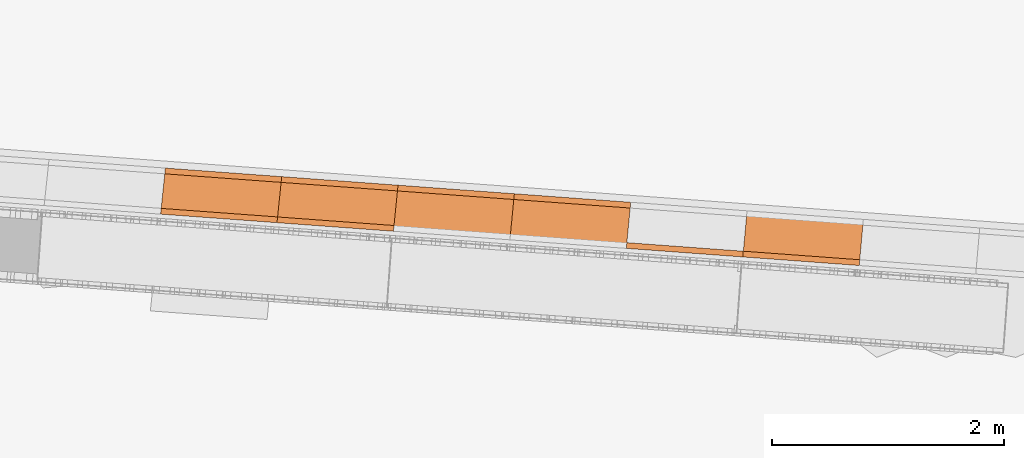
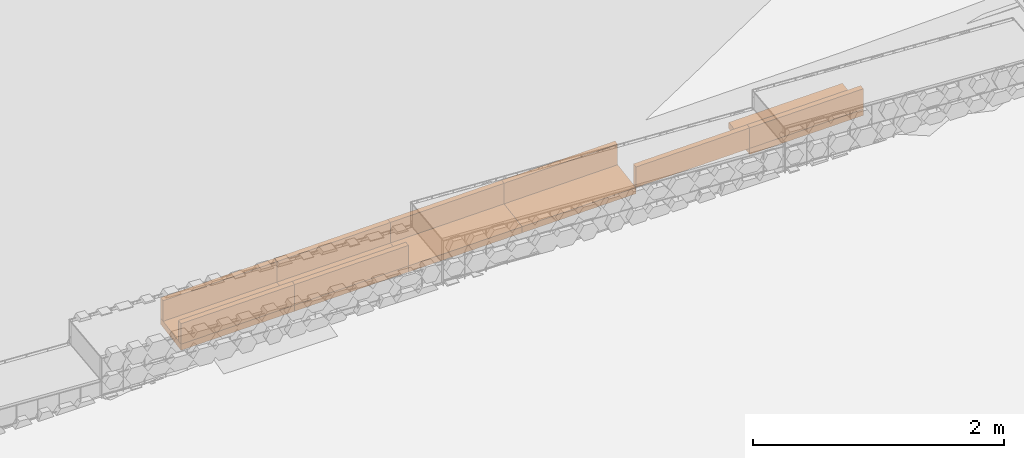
# Not in any storey, part 38 of 46: 13 proxies.
"""IFC4 model written with IfcOpenShell, lengths in metres."""

from ifc_helpers import new_model, si_unit, direction, frame, origin_with_axes, place, context, subcontext, project, spatial, polygons, material, element, save


model = new_model("IFC4")

# Units and contexts
model_context = context("Model", 3, precision=1e-05, world=origin_with_axes(), true_north=direction((0.0, 1.0)))
body_context = subcontext(model_context, "Body", "Model", "MODEL_VIEW")
ifc_project = project(units=[si_unit("VOLUMEUNIT", "CUBIC_METRE"), si_unit("LENGTHUNIT", "METRE"), si_unit("AREAUNIT", "SQUARE_METRE")], contexts=[model_context])

# Site
site_placement = place(None, origin_with_axes())
site = spatial("IfcSite", under=ifc_project, at=site_placement, Name="Lares · Rua das Mercês · artigo 4771")

# Proxies
ifc_material = material(Name="Caleiras · betão", Category="concrete")
proxy_1_placement = place(site_placement, frame((0.0, 0.0, 0.0), z_axis=(0.0, 0.0, 1.0), x_axis=(1.0, -1.03767253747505e-17, 0.0)))
element("IfcBuildingElementProxy", 1, at=proxy_1_placement, inside=site, material=ifc_material, Name="Acesso · canal lateral", ObjectType="Acesso · canal lateral", PredefinedType="USERDEFINED", context=body_context, shape_type="Tessellation", body=[
    polygons([(74.7098133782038, 0.677607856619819, 15.2725349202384), (74.7512334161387, 1.07545755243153, 15.2725349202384), (75.7561439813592, 1.00156402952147, 15.3469929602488), (75.7147239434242, 0.603714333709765, 15.3469929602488), (74.7098133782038, 0.677607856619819, 15.3325349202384), (74.7512334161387, 1.07545755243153, 15.3325349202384), (75.7561439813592, 1.00156402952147, 15.4069929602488), (75.7147239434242, 0.603714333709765, 15.4069929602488)], [[[4, 3, 2, 1]], [[5, 6, 7, 8]], [[1, 2, 6, 5]], [[2, 3, 7, 6]], [[3, 4, 8, 7]], [[4, 1, 5, 8]]]),
])
proxy_2_placement = place(site_placement, frame((0.0, 0.0, 0.0), z_axis=(0.0, 0.0, 1.0), x_axis=(1.0, -1.03767253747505e-17, 0.0)))
element("IfcBuildingElementProxy", 2, at=proxy_2_placement, inside=site, material=ifc_material, Name="Acesso · canal lateral", ObjectType="Acesso · canal lateral", PredefinedType="USERDEFINED", context=body_context, shape_type="Tessellation", body=[
    polygons([(74.7098133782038, 0.677607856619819, 15.3325349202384), (74.7149908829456, 0.727339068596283, 15.3325349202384), (75.7199014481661, 0.653445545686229, 15.4069929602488), (75.7147239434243, 0.603714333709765, 15.4069929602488), (74.7098133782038, 0.677607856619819, 15.5325349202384), (74.7149908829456, 0.727339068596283, 15.5325349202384), (75.7199014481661, 0.653445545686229, 15.6069929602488), (75.7147239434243, 0.603714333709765, 15.6069929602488)], [[[4, 3, 2, 1]], [[5, 6, 7, 8]], [[1, 2, 6, 5]], [[2, 3, 7, 6]], [[3, 4, 8, 7]], [[4, 1, 5, 8]]]),
])
proxy_3_placement = place(site_placement, frame((0.0, 0.0, 0.0), z_axis=(0.0, 0.0, 1.0), x_axis=(1.0, -1.03767253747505e-17, 0.0)))
element("IfcBuildingElementProxy", 3, at=proxy_3_placement, inside=site, material=ifc_material, Name="Acesso · canal lateral", ObjectType="Acesso · canal lateral", PredefinedType="USERDEFINED", context=body_context, shape_type="Tessellation", body=[
    polygons([(74.7460559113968, 1.02572634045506, 15.3325349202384), (74.7512334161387, 1.07545755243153, 15.3325349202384), (75.7561439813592, 1.00156402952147, 15.4069929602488), (75.7509664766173, 0.95183281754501, 15.4069929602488), (74.7460559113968, 1.02572634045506, 15.5325349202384), (74.7512334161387, 1.07545755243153, 15.5325349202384), (75.7561439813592, 1.00156402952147, 15.6069929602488), (75.7509664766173, 0.95183281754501, 15.6069929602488)], [[[4, 3, 2, 1]], [[5, 6, 7, 8]], [[1, 2, 6, 5]], [[2, 3, 7, 6]], [[3, 4, 8, 7]], [[4, 1, 5, 8]]]),
])
proxy_4_placement = place(site_placement, frame((0.0, 0.0, 0.0), z_axis=(0.0, 0.0, 1.0), x_axis=(1.0, -1.03767253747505e-17, 0.0)))
element("IfcBuildingElementProxy", 4, at=proxy_4_placement, inside=site, material=ifc_material, Name="Acesso · canal lateral", ObjectType="Acesso · canal lateral", PredefinedType="USERDEFINED", context=body_context, shape_type="Tessellation", body=[
    polygons([(75.7151947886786, 0.603665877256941, 15.3469929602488), (75.7556731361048, 1.0016124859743, 15.3469929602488), (76.760604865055, 0.927718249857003, 15.4214510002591), (76.7201265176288, 0.529771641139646, 15.4214510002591), (75.7151947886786, 0.603665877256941, 15.4069929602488), (75.7556731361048, 1.0016124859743, 15.4069929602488), (76.760604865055, 0.927718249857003, 15.4814510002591), (76.7201265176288, 0.529771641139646, 15.4814510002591)], [[[4, 3, 2, 1]], [[5, 6, 7, 8]], [[1, 2, 6, 5]], [[2, 3, 7, 6]], [[3, 4, 8, 7]], [[4, 1, 5, 8]]]),
])
proxy_5_placement = place(site_placement, frame((0.0, 0.0, 0.0), z_axis=(0.0, 0.0, 1.0), x_axis=(1.0, -1.03767253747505e-17, 0.0)))
element("IfcBuildingElementProxy", 5, at=proxy_5_placement, inside=site, material=ifc_material, Name="Acesso · canal lateral", ObjectType="Acesso · canal lateral", PredefinedType="USERDEFINED", context=body_context, shape_type="Tessellation", body=[
    polygons([(75.7151947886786, 0.603665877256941, 15.4069929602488), (75.7202545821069, 0.653409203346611, 15.4069929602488), (76.725186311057, 0.579514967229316, 15.4814510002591), (76.7201265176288, 0.529771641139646, 15.4814510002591), (75.7151947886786, 0.603665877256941, 15.6069929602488), (75.7202545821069, 0.653409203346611, 15.6069929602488), (76.725186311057, 0.579514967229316, 15.6814510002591), (76.7201265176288, 0.529771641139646, 15.6814510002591)], [[[4, 3, 2, 1]], [[5, 6, 7, 8]], [[1, 2, 6, 5]], [[2, 3, 7, 6]], [[3, 4, 8, 7]], [[4, 1, 5, 8]]]),
])
proxy_6_placement = place(site_placement, frame((0.0, 0.0, 0.0), z_axis=(0.0, 0.0, 1.0), x_axis=(1.0, -1.03767253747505e-17, 0.0)))
element("IfcBuildingElementProxy", 6, at=proxy_6_placement, inside=site, material=ifc_material, Name="Acesso · canal lateral", ObjectType="Acesso · canal lateral", PredefinedType="USERDEFINED", context=body_context, shape_type="Tessellation", body=[
    polygons([(75.7506133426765, 0.951869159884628, 15.4069929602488), (75.7556731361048, 1.0016124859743, 15.4069929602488), (76.760604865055, 0.927718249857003, 15.4814510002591), (76.7555450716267, 0.877974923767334, 15.4814510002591), (75.7506133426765, 0.951869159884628, 15.6069929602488), (75.7556731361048, 1.0016124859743, 15.6069929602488), (76.760604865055, 0.927718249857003, 15.6814510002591), (76.7555450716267, 0.877974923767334, 15.6814510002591)], [[[4, 3, 2, 1]], [[5, 6, 7, 8]], [[1, 2, 6, 5]], [[2, 3, 7, 6]], [[3, 4, 8, 7]], [[4, 1, 5, 8]]]),
])
proxy_7_placement = place(site_placement, frame((0.0, 0.0, 0.0), z_axis=(0.0, 0.0, 1.0), x_axis=(1.0, -1.03767253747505e-17, 0.0)))
element("IfcBuildingElementProxy", 7, at=proxy_7_placement, inside=site, material=ifc_material, Name="Acesso · canal lateral", ObjectType="Acesso · canal lateral", PredefinedType="USERDEFINED", context=body_context, shape_type="Tessellation", body=[
    polygons([(76.7206140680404, 0.52972265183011, 15.4214510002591), (76.7601173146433, 0.927767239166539, 15.4214510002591), (77.7650713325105, 0.85387233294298, 15.4959090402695), (77.7255680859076, 0.455827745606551, 15.4959090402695), (76.7206140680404, 0.52972265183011, 15.4814510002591), (76.7601173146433, 0.927767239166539, 15.4814510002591), (77.7650713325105, 0.85387233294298, 15.5559090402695), (77.7255680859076, 0.455827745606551, 15.5559090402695)], [[[4, 3, 2, 1]], [[5, 6, 7, 8]], [[1, 2, 6, 5]], [[2, 3, 7, 6]], [[3, 4, 8, 7]], [[4, 1, 5, 8]]]),
])
proxy_8_placement = place(site_placement, frame((0.0, 0.0, 0.0), z_axis=(0.0, 0.0, 1.0), x_axis=(1.0, -1.03767253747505e-17, 0.0)))
element("IfcBuildingElementProxy", 8, at=proxy_8_placement, inside=site, material=ifc_material, Name="Acesso · canal lateral", ObjectType="Acesso · canal lateral", PredefinedType="USERDEFINED", context=body_context, shape_type="Tessellation", body=[
    polygons([(76.755179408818, 0.878011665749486, 15.4814510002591), (76.7601173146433, 0.927767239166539, 15.4814510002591), (77.7650713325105, 0.85387233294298, 15.5559090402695), (77.7601334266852, 0.804116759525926, 15.5559090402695), (76.755179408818, 0.878011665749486, 15.6814510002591), (76.7601173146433, 0.927767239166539, 15.6814510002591), (77.7650713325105, 0.85387233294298, 15.7559090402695), (77.7601334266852, 0.804116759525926, 15.7559090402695)], [[[4, 3, 2, 1]], [[5, 6, 7, 8]], [[1, 2, 6, 5]], [[2, 3, 7, 6]], [[3, 4, 8, 7]], [[4, 1, 5, 8]]]),
])
proxy_9_placement = place(site_placement, frame((0.0, 0.0, 0.0), z_axis=(0.0, 0.0, 1.0), x_axis=(1.0, -1.03767253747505e-17, 0.0)))
element("IfcBuildingElementProxy", 9, at=proxy_9_placement, inside=site, material=ifc_material, Name="Acesso · canal lateral", ObjectType="Acesso · canal lateral", PredefinedType="USERDEFINED", context=body_context, shape_type="Tessellation", body=[
    polygons([(77.7260732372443, 0.455778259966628, 15.4959090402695), (77.7645661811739, 0.853921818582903, 15.4959090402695), (78.7695436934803, 0.780026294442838, 15.5703670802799), (78.7310507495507, 0.381882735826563, 15.5703670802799), (77.7260732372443, 0.455778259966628, 15.5559090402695), (77.7645661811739, 0.853921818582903, 15.5559090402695), (78.7695436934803, 0.780026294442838, 15.6303670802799), (78.7310507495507, 0.381882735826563, 15.6303670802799)], [[[4, 3, 2, 1]], [[5, 6, 7, 8]], [[1, 2, 6, 5]], [[2, 3, 7, 6]], [[3, 4, 8, 7]], [[4, 1, 5, 8]]]),
])
proxy_10_placement = place(site_placement, frame((0.0, 0.0, 0.0), z_axis=(0.0, 0.0, 1.0), x_axis=(1.0, -1.03767253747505e-17, 0.0)))
element("IfcBuildingElementProxy", 10, at=proxy_10_placement, inside=site, material=ifc_material, Name="Acesso · canal lateral", ObjectType="Acesso · canal lateral", PredefinedType="USERDEFINED", context=body_context, shape_type="Tessellation", body=[
    polygons([(77.7597545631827, 0.804153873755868, 15.5559090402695), (77.7645661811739, 0.853921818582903, 15.5559090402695), (78.7695436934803, 0.780026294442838, 15.6303670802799), (78.7647320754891, 0.730258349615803, 15.6303670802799), (77.7597545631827, 0.804153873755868, 15.7559090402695), (77.7645661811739, 0.853921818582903, 15.7559090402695), (78.7695436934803, 0.780026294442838, 15.8303670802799), (78.7647320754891, 0.730258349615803, 15.8303670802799)], [[[4, 3, 2, 1]], [[5, 6, 7, 8]], [[1, 2, 6, 5]], [[2, 3, 7, 6]], [[3, 4, 8, 7]], [[4, 1, 5, 8]]]),
])
proxy_11_placement = place(site_placement, frame((0.0, 0.0, 0.0), z_axis=(0.0, 0.0, 1.0), x_axis=(1.0, -1.03767253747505e-17, 0.0)))
element("IfcBuildingElementProxy", 11, at=proxy_11_placement, inside=site, material=ifc_material, Name="Acesso · canal lateral", ObjectType="Acesso · canal lateral", PredefinedType="USERDEFINED", context=body_context, shape_type="Tessellation", body=[
    polygons([(78.7315744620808, 0.381832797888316, 15.6303670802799), (78.7362551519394, 0.431613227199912, 15.6303670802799), (79.7412574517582, 0.357717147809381, 15.7048251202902), (79.7365767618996, 0.307936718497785, 15.7048251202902), (78.7315744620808, 0.381832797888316, 15.8303670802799), (78.7362551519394, 0.431613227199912, 15.8303670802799), (79.7412574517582, 0.357717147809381, 15.9048251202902), (79.7365767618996, 0.307936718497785, 15.9048251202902)], [[[4, 3, 2, 1]], [[5, 6, 7, 8]], [[1, 2, 6, 5]], [[2, 3, 7, 6]], [[3, 4, 8, 7]], [[4, 1, 5, 8]]]),
])
proxy_12_placement = place(site_placement, frame((0.0, 0.0, 0.0), z_axis=(0.0, 0.0, 1.0), x_axis=(1.0, -1.03767253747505e-17, 0.0)))
element("IfcBuildingElementProxy", 12, at=proxy_12_placement, inside=site, material=ifc_material, Name="Acesso · canal lateral", ObjectType="Acesso · canal lateral", PredefinedType="USERDEFINED", context=body_context, shape_type="Tessellation", body=[
    polygons([(79.7371200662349, 0.30788638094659, 15.6448251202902), (79.7734789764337, 0.706230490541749, 15.6448251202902), (80.7785074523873, 0.632333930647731, 15.7192831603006), (80.7421485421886, 0.233989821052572, 15.7192831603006), (79.7371200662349, 0.30788638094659, 15.7048251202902), (79.7734789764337, 0.706230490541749, 15.7048251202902), (80.7785074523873, 0.632333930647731, 15.7792831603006), (80.7421485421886, 0.233989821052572, 15.7792831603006)], [[[4, 3, 2, 1]], [[5, 6, 7, 8]], [[1, 2, 6, 5]], [[2, 3, 7, 6]], [[3, 4, 8, 7]], [[4, 1, 5, 8]]]),
])
proxy_13_placement = place(site_placement, frame((0.0, 0.0, 0.0), z_axis=(0.0, 0.0, 1.0), x_axis=(1.0, -1.03767253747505e-17, 0.0)))
element("IfcBuildingElementProxy", 13, at=proxy_13_placement, inside=site, material=ifc_material, Name="Acesso · canal lateral", ObjectType="Acesso · canal lateral", PredefinedType="USERDEFINED", context=body_context, shape_type="Tessellation", body=[
    polygons([(79.7371200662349, 0.30788638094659, 15.7048251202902), (79.7416649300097, 0.357679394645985, 15.7048251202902), (80.7466934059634, 0.283782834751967, 15.7792831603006), (80.7421485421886, 0.233989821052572, 15.7792831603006), (79.7371200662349, 0.30788638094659, 15.9048251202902), (79.7416649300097, 0.357679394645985, 15.9048251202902), (80.7466934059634, 0.283782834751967, 15.9792831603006), (80.7421485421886, 0.233989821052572, 15.9792831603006)], [[[4, 3, 2, 1]], [[5, 6, 7, 8]], [[1, 2, 6, 5]], [[2, 3, 7, 6]], [[3, 4, 8, 7]], [[4, 1, 5, 8]]]),
])

save(model, "model.ifc")
